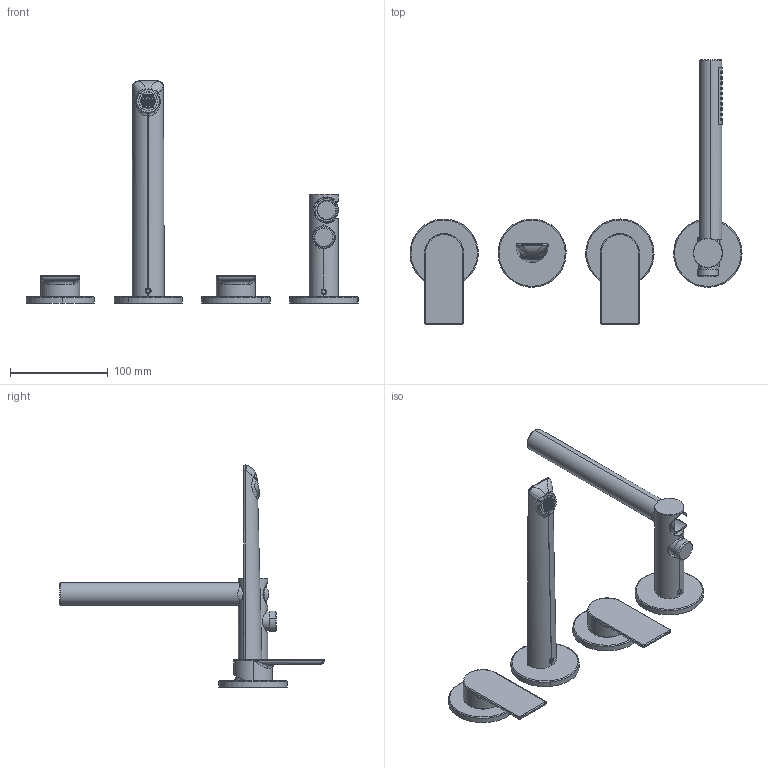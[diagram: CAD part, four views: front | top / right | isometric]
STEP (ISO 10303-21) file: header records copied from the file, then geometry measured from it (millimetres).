
FILE_DESCRIPTION (( 'STEP AP214' ), '1' );
FILE_NAME ('80139910 x architetti.STEP', '2025-03-05T10:36:46', ( '' ), ( '' ), 'SwSTEP 2.0', 'SolidWorks 2020', '' );
FILE_SCHEMA (( 'AUTOMOTIVE_DESIGN' ));
Length unit declared in the file: millimetre
Products named in the file (1): 80139910 x architetti
Bounding box: 339.98 x 271 x 227.37 mm (x, y, z)
Volume: 393077.4 mm3; surface area: 120638.6 mm2
Topology: 8 solids, 12 shells, 1351 faces, 3150 edges, 1866 vertices
Faces by surface type: plane 609, cylinder 559, bspline 115, cone 36, torus 32
Entity records: 66972 total; most frequent: CARTESIAN_POINT 25346, ORIENTED_EDGE 6276, DIRECTION 5012, EDGE_CURVE 3138, VERTEX_POINT 1866, VECTOR 1726, LINE 1726, AXIS2_PLACEMENT_3D 1643
